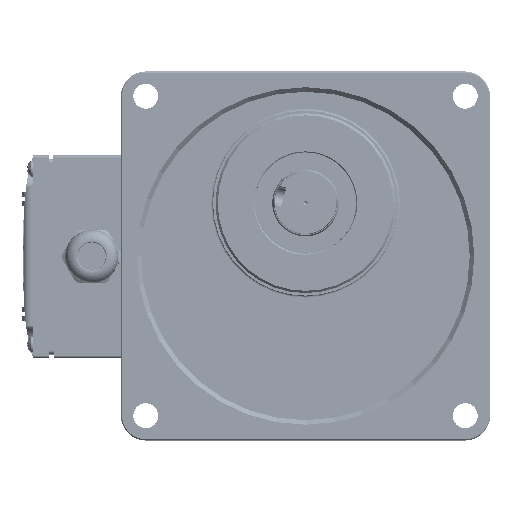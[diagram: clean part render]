
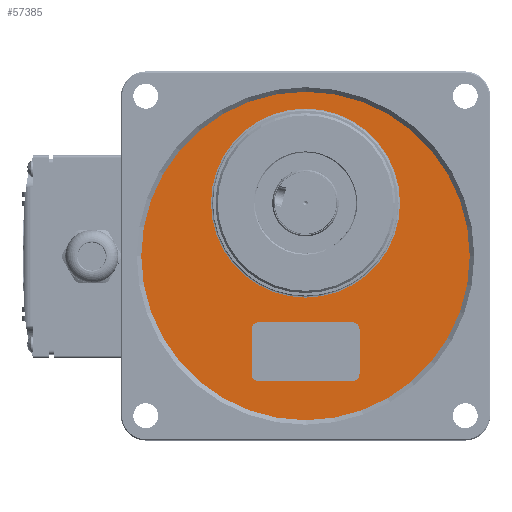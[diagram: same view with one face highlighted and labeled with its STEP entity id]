
A CAD part, top view. The second image highlights one B-rep face of the part: STEP entity #57385.
In plain terms, the highlighted planar face has unit normal (0, 0, 1).
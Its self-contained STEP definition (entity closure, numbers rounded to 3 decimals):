
#3314=FACE_BOUND('',#10035,.T.);
#3315=FACE_BOUND('',#10036,.T.);
#3850=PLANE('',#61654);
#6412=FACE_OUTER_BOUND('',#10034,.T.);
#10034=EDGE_LOOP('',(#39433));
#10035=EDGE_LOOP('',(#39434,#39435,#39436,#39437,#39438,#39439,#39440,#39441));
#10036=EDGE_LOOP('',(#39442));
#13769=CIRCLE('',#61435,73.);
#13868=CIRCLE('',#61591,42.);
#13906=CIRCLE('',#61655,3.);
#13907=CIRCLE('',#61656,3.);
#13908=CIRCLE('',#61657,3.);
#13909=CIRCLE('',#61658,3.);
#17244=LINE('',#95573,#20137);
#17245=LINE('',#95577,#20138);
#17246=LINE('',#95581,#20139);
#17247=LINE('',#95585,#20140);
#20137=VECTOR('',#69994,20.);
#20138=VECTOR('',#69997,42.);
#20139=VECTOR('',#70000,20.);
#20140=VECTOR('',#70003,42.);
#23402=VERTEX_POINT('',#94731);
#23509=VERTEX_POINT('',#95385);
#23577=VERTEX_POINT('',#95571);
#23578=VERTEX_POINT('',#95572);
#23579=VERTEX_POINT('',#95574);
#23580=VERTEX_POINT('',#95576);
#23581=VERTEX_POINT('',#95578);
#23582=VERTEX_POINT('',#95580);
#23583=VERTEX_POINT('',#95582);
#23584=VERTEX_POINT('',#95584);
#29139=EDGE_CURVE('',#23402,#23402,#13769,.T.);
#29311=EDGE_CURVE('',#23509,#23509,#13868,.T.);
#29402=EDGE_CURVE('',#23577,#23578,#17244,.T.);
#29403=EDGE_CURVE('',#23579,#23578,#13906,.T.);
#29404=EDGE_CURVE('',#23579,#23580,#17245,.T.);
#29405=EDGE_CURVE('',#23581,#23580,#13907,.T.);
#29406=EDGE_CURVE('',#23581,#23582,#17246,.T.);
#29407=EDGE_CURVE('',#23583,#23582,#13908,.T.);
#29408=EDGE_CURVE('',#23583,#23584,#17247,.T.);
#29409=EDGE_CURVE('',#23577,#23584,#13909,.T.);
#39433=ORIENTED_EDGE('',*,*,#29139,.T.);
#39434=ORIENTED_EDGE('',*,*,#29402,.T.);
#39435=ORIENTED_EDGE('',*,*,#29403,.F.);
#39436=ORIENTED_EDGE('',*,*,#29404,.T.);
#39437=ORIENTED_EDGE('',*,*,#29405,.F.);
#39438=ORIENTED_EDGE('',*,*,#29406,.T.);
#39439=ORIENTED_EDGE('',*,*,#29407,.F.);
#39440=ORIENTED_EDGE('',*,*,#29408,.T.);
#39441=ORIENTED_EDGE('',*,*,#29409,.F.);
#39442=ORIENTED_EDGE('',*,*,#29311,.F.);
#57385=ADVANCED_FACE('',(#6412,#3314,#3315),#3850,.F.);
#61435=AXIS2_PLACEMENT_3D('',#94732,#69448,#69449);
#61591=AXIS2_PLACEMENT_3D('',#95387,#69813,#69814);
#61654=AXIS2_PLACEMENT_3D('',#95570,#69992,#69993);
#61655=AXIS2_PLACEMENT_3D('',#95575,#69995,#69996);
#61656=AXIS2_PLACEMENT_3D('',#95579,#69998,#69999);
#61657=AXIS2_PLACEMENT_3D('',#95583,#70001,#70002);
#61658=AXIS2_PLACEMENT_3D('',#95586,#70004,#70005);
#69448=DIRECTION('center_axis',(0.,0.,1.));
#69449=DIRECTION('ref_axis',(-1.,0.,0.));
#69813=DIRECTION('center_axis',(0.,0.,1.));
#69814=DIRECTION('ref_axis',(-1.,0.,0.));
#69992=DIRECTION('center_axis',(0.,0.,-1.));
#69993=DIRECTION('ref_axis',(-1.,0.,0.));
#69994=DIRECTION('',(0.,1.,0.));
#69995=DIRECTION('center_axis',(0.,0.,1.));
#69996=DIRECTION('ref_axis',(-0.707,0.707,0.));
#69997=DIRECTION('',(1.,0.,0.));
#69998=DIRECTION('center_axis',(0.,0.,1.));
#69999=DIRECTION('ref_axis',(0.707,0.707,0.));
#70000=DIRECTION('',(0.,-1.,0.));
#70001=DIRECTION('center_axis',(0.,0.,1.));
#70002=DIRECTION('ref_axis',(0.707,-0.707,0.));
#70003=DIRECTION('',(-1.,0.,0.));
#70004=DIRECTION('center_axis',(0.,0.,1.));
#70005=DIRECTION('ref_axis',(-0.707,-0.707,0.));
#94731=CARTESIAN_POINT('',(73.,0.,89.));
#94732=CARTESIAN_POINT('Origin',(0.,0.,89.));
#95385=CARTESIAN_POINT('',(-42.,23.5,89.));
#95387=CARTESIAN_POINT('Origin',(0.,23.5,89.));
#95570=CARTESIAN_POINT('Origin',(0.,0.,89.));
#95571=CARTESIAN_POINT('',(-24.,-52.5,89.));
#95572=CARTESIAN_POINT('',(-24.,-32.5,89.));
#95573=CARTESIAN_POINT('',(-24.,-52.5,89.));
#95574=CARTESIAN_POINT('',(-21.,-29.5,89.));
#95575=CARTESIAN_POINT('Origin',(-21.,-32.5,89.));
#95576=CARTESIAN_POINT('',(21.,-29.5,89.));
#95577=CARTESIAN_POINT('',(-21.,-29.5,89.));
#95578=CARTESIAN_POINT('',(24.,-32.5,89.));
#95579=CARTESIAN_POINT('Origin',(21.,-32.5,89.));
#95580=CARTESIAN_POINT('',(24.,-52.5,89.));
#95581=CARTESIAN_POINT('',(24.,-32.5,89.));
#95582=CARTESIAN_POINT('',(21.,-55.5,89.));
#95583=CARTESIAN_POINT('Origin',(21.,-52.5,89.));
#95584=CARTESIAN_POINT('',(-21.,-55.5,89.));
#95585=CARTESIAN_POINT('',(21.,-55.5,89.));
#95586=CARTESIAN_POINT('Origin',(-21.,-52.5,89.));
